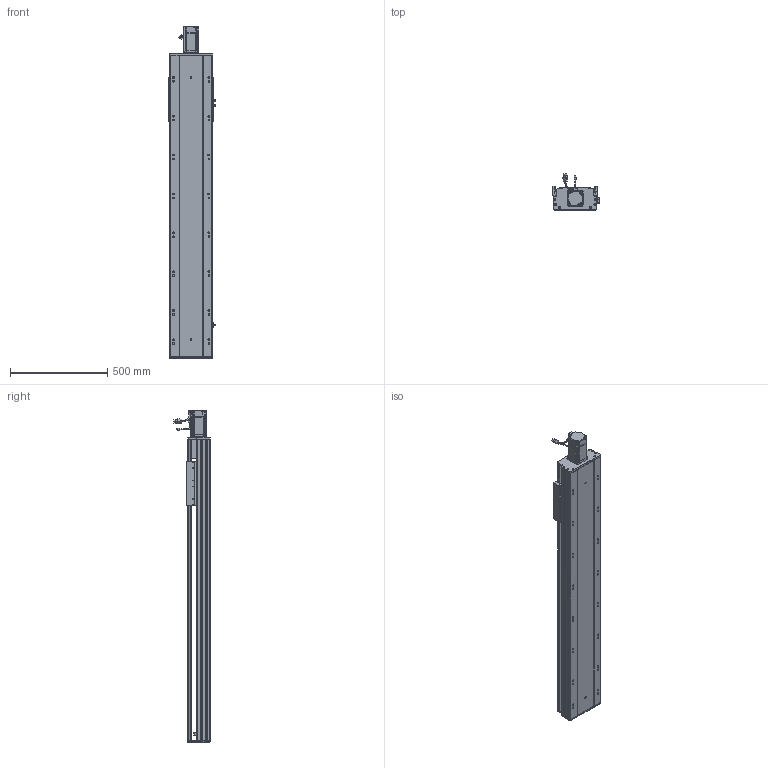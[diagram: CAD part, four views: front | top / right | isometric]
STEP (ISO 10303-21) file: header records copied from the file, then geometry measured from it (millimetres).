
FILE_DESCRIPTION (( 'STEP AP203' ), '1' );
FILE_NAME ('RY220-L2525-300-MK.SLDASM_1150.step', '2022-07-04T02:58:01', ( '' ), ( '' ), 'SwSTEP 2.0', 'SolidWorks 2016', '' );
FILE_SCHEMA (( 'CONFIG_CONTROL_DESIGN' ));
Length unit declared in the file: millimetre
Products named in the file (12): RY220綴裔啣; 滅袉蝶18-12; 覜茼ん672; 怢湛750W_ECMA-CX0807ES; RY220-300-奻裔啣-MK_1150; RY220ヶ裔啣; RY220电机支撑座FK20（PCD90M6）; RY220半封闭25-32螺母铝滑块; 滅袉蝶18-15; RY220菁釱MK-300_1150; RY220-俋离672覜茼んえ; RY220-L2525-300-MK.SLDASM_1150
Assembly tree (15 placements, depth 2):
  RY220-L2525-300-MK.SLDASM_1150
    RY220菁釱MK-300_1150
    RY220电机支撑座FK20（PCD90M6）
    怢湛750W_ECMA-CX0807ES
    滅袉蝶18-12  x2
    RY220ヶ裔啣
    RY220綴裔啣
    覜茼ん672  x3
    RY220半封闭25-32螺母铝滑块
    RY220-300-奻裔啣-MK_1150
    RY220-俋离672覜茼んえ
    滅袉蝶18-15  x2
Bounding box: 238.7 x 187.27 x 1708.3 mm (x, y, z)
Volume: 13343349.1 mm3; surface area: 3748411.6 mm2
Topology: 16 solids, 16 shells, 2244 faces, 6222 edges, 3924 vertices
Faces by surface type: cylinder 1018, plane 907, cone 257, bspline 36, sphere 16, torus 10
Entity records: 73842 total; most frequent: CARTESIAN_POINT 20995, ORIENTED_EDGE 10968, DIRECTION 10391, EDGE_CURVE 5484, AXIS2_PLACEMENT_3D 3665, VERTEX_POINT 3580, LINE 3061, VECTOR 3061
